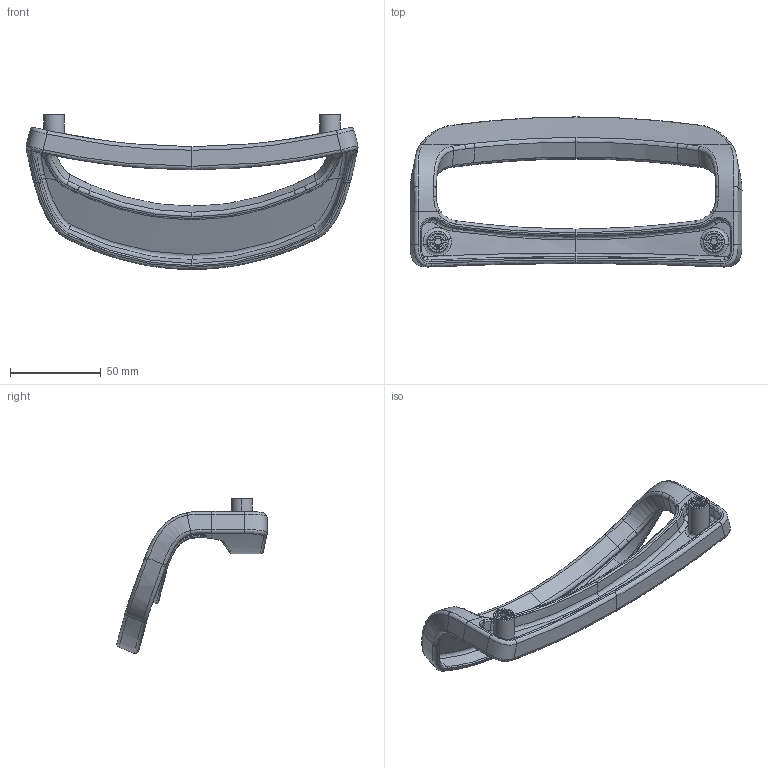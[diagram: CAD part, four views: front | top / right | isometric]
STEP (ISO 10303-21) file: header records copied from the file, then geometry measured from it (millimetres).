
FILE_DESCRIPTION (( 'STEP AP203' ), '1' );
FILE_NAME ('Handle - Megumi.STEP', '2020-02-19T03:25:15', ( '' ), ( '' ), 'SwSTEP 2.0', 'SolidWorks 2020', '' );
FILE_SCHEMA (( 'CONFIG_CONTROL_DESIGN' ));
Length unit declared in the file: inch
Products named in the file (1): Handle - Megumi
Bounding box: 183.34 x 82.96 x 85.55 mm (x, y, z)
Volume: 76379.3 mm3; surface area: 42867 mm2
Topology: 1 solids, 1 shells, 590 faces, 1402 edges, 828 vertices
Faces by surface type: bspline 234, cylinder 184, torus 122, plane 42, sphere 4, cone 4
Entity records: 38567 total; most frequent: CARTESIAN_POINT 26845, ORIENTED_EDGE 2792, DIRECTION 1944, EDGE_CURVE 1396, AXIS2_PLACEMENT_3D 849, VERTEX_POINT 826, B_SPLINE_CURVE_WITH_KNOTS 626, EDGE_LOOP 610
